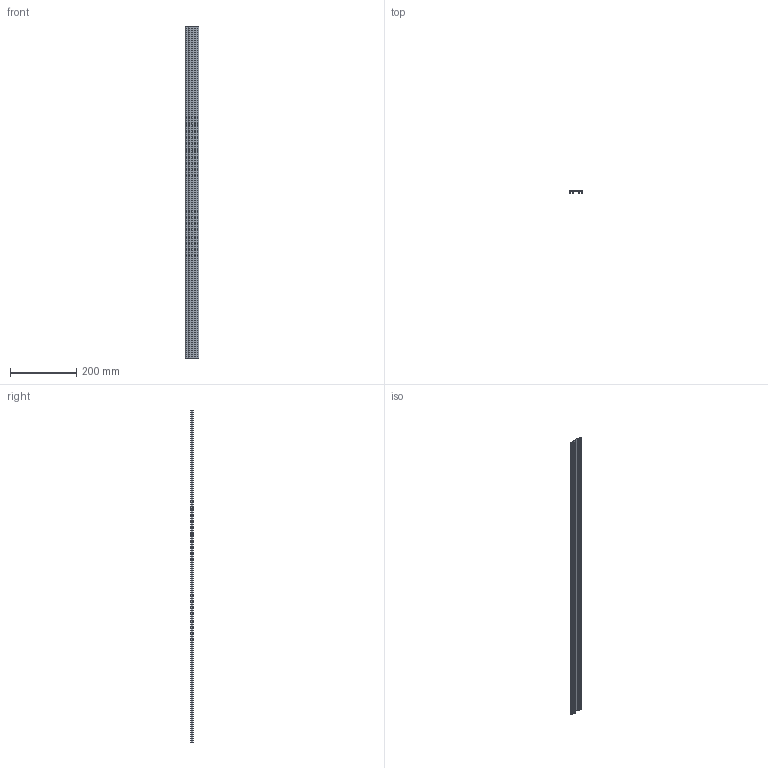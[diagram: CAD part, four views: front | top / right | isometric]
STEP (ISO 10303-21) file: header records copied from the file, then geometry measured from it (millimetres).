
FILE_DESCRIPTION (( 'STEP AP214' ), '1' );
FILE_NAME ('10256_KABDEC40.STEP', '2016-05-03T12:01:52', ( '' ), ( '' ), 'SwSTEP 2.0', 'SolidWorks 2015', '' );
FILE_SCHEMA (( 'AUTOMOTIVE_DESIGN' ));
Length unit declared in the file: millimetre
Products named in the file (1): 10256_KABDEC40
Bounding box: 40 x 9 x 1000 mm (x, y, z)
Volume: 110697.2 mm3; surface area: 140589.7 mm2
Topology: 1 solids, 1 shells, 72 faces, 210 edges, 140 vertices
Faces by surface type: plane 53, cylinder 19
Entity records: 2406 total; most frequent: CARTESIAN_POINT 423, ORIENTED_EDGE 420, DIRECTION 394, EDGE_CURVE 210, LINE 172, VECTOR 172, VERTEX_POINT 140, AXIS2_PLACEMENT_3D 111
